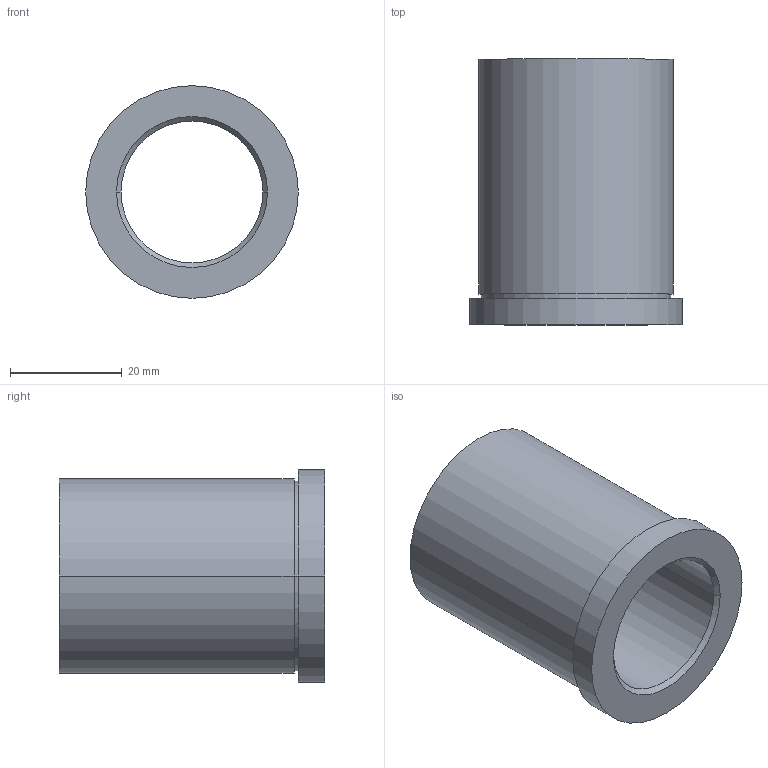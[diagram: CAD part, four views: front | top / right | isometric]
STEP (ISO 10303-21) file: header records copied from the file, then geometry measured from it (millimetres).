
FILE_DESCRIPTION (( 'STEP AP203' ), '1' );
FILE_NAME ('BU-302.step', '2014-02-27T03:05:26', ( '' ), ( '' ), 'SwSTEP 2.0', 'SolidWorks 2009', '' );
FILE_SCHEMA (( 'CONFIG_CONTROL_DESIGN' ));
Length unit declared in the file: inch
Products named in the file (1): BU-302
Bounding box: 38.1 x 47.62 x 38.1 mm (x, y, z)
Volume: 22255.6 mm3; surface area: 10361.6 mm2
Topology: 1 solids, 1 shells, 16 faces, 32 edges, 20 vertices
Faces by surface type: cylinder 8, plane 4, torus 2, cone 2
Entity records: 509 total; most frequent: DIRECTION 88, CARTESIAN_POINT 69, ORIENTED_EDGE 64, AXIS2_PLACEMENT_3D 39, EDGE_CURVE 32, CIRCLE 22, EDGE_LOOP 20, VERTEX_POINT 20
